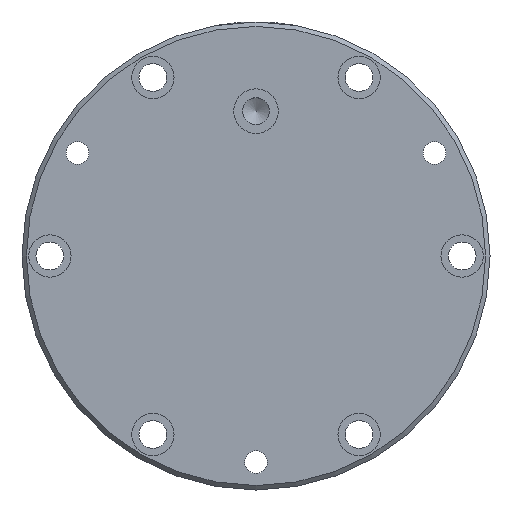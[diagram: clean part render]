
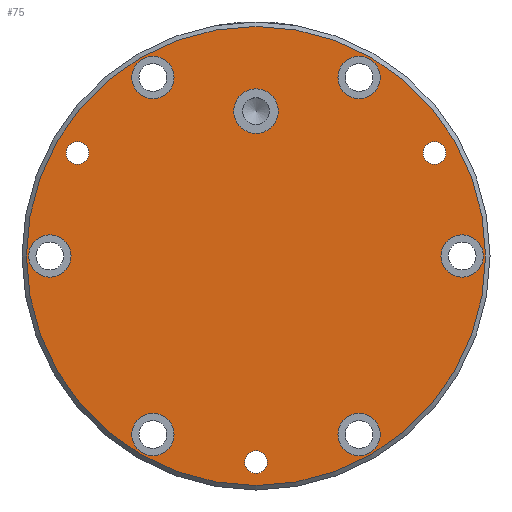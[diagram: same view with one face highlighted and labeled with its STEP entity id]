
A CAD part, left-side view. The second image highlights one B-rep face of the part: STEP entity #75.
In plain terms, the highlighted planar face has unit normal (-1, 0, 0).
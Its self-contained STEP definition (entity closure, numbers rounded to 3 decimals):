
#75 = ADVANCED_FACE( '', ( #119, #120, #121, #122, #123, #124, #125, #126, #127, #128, #129 ), #130, .T. );
#119 = FACE_BOUND( '', #266, .T. );
#120 = FACE_BOUND( '', #267, .T. );
#121 = FACE_BOUND( '', #268, .T. );
#122 = FACE_BOUND( '', #269, .T. );
#123 = FACE_BOUND( '', #270, .T. );
#124 = FACE_BOUND( '', #271, .T. );
#125 = FACE_BOUND( '', #272, .T. );
#126 = FACE_BOUND( '', #273, .T. );
#127 = FACE_BOUND( '', #274, .T. );
#128 = FACE_OUTER_BOUND( '', #275, .T. );
#129 = FACE_BOUND( '', #276, .T. );
#130 = PLANE( '', #277 );
#266 = EDGE_LOOP( '', ( #413 ) );
#267 = EDGE_LOOP( '', ( #414 ) );
#268 = EDGE_LOOP( '', ( #415 ) );
#269 = EDGE_LOOP( '', ( #416 ) );
#270 = EDGE_LOOP( '', ( #417 ) );
#271 = EDGE_LOOP( '', ( #418 ) );
#272 = EDGE_LOOP( '', ( #419 ) );
#273 = EDGE_LOOP( '', ( #420 ) );
#274 = EDGE_LOOP( '', ( #421 ) );
#275 = EDGE_LOOP( '', ( #422 ) );
#276 = EDGE_LOOP( '', ( #423 ) );
#277 = AXIS2_PLACEMENT_3D( '', #424, #425, #426 );
#413 = ORIENTED_EDGE( '', *, *, #647, .F. );
#414 = ORIENTED_EDGE( '', *, *, #648, .F. );
#415 = ORIENTED_EDGE( '', *, *, #649, .F. );
#416 = ORIENTED_EDGE( '', *, *, #650, .T. );
#417 = ORIENTED_EDGE( '', *, *, #651, .T. );
#418 = ORIENTED_EDGE( '', *, *, #652, .T. );
#419 = ORIENTED_EDGE( '', *, *, #653, .T. );
#420 = ORIENTED_EDGE( '', *, *, #654, .T. );
#421 = ORIENTED_EDGE( '', *, *, #655, .T. );
#422 = ORIENTED_EDGE( '', *, *, #656, .T. );
#423 = ORIENTED_EDGE( '', *, *, #657, .T. );
#424 = CARTESIAN_POINT( '', ( 0., 0., 0. ) );
#425 = DIRECTION( '', ( -1., 0., 0. ) );
#426 = DIRECTION( '', ( 0., 0., 1. ) );
#647 = EDGE_CURVE( '', #700, #700, #701, .T. );
#648 = EDGE_CURVE( '', #702, #702, #703, .T. );
#649 = EDGE_CURVE( '', #704, #704, #705, .T. );
#650 = EDGE_CURVE( '', #706, #706, #707, .T. );
#651 = EDGE_CURVE( '', #708, #708, #709, .T. );
#652 = EDGE_CURVE( '', #710, #710, #711, .T. );
#653 = EDGE_CURVE( '', #712, #712, #713, .T. );
#654 = EDGE_CURVE( '', #714, #714, #715, .T. );
#655 = EDGE_CURVE( '', #716, #716, #717, .T. );
#656 = EDGE_CURVE( '', #718, #718, #719, .T. );
#657 = EDGE_CURVE( '', #720, #720, #721, .T. );
#700 = VERTEX_POINT( '', #803 );
#701 = CIRCLE( '', #804, 5.1 );
#702 = VERTEX_POINT( '', #805 );
#703 = CIRCLE( '', #806, 5.1 );
#704 = VERTEX_POINT( '', #807 );
#705 = CIRCLE( '', #808, 5.1 );
#706 = VERTEX_POINT( '', #809 );
#707 = CIRCLE( '', #810, 9.5 );
#708 = VERTEX_POINT( '', #811 );
#709 = CIRCLE( '', #812, 9.5 );
#710 = VERTEX_POINT( '', #813 );
#711 = CIRCLE( '', #814, 9.5 );
#712 = VERTEX_POINT( '', #815 );
#713 = CIRCLE( '', #816, 9.5 );
#714 = VERTEX_POINT( '', #817 );
#715 = CIRCLE( '', #818, 9.5 );
#716 = VERTEX_POINT( '', #819 );
#717 = CIRCLE( '', #820, 9.5 );
#718 = VERTEX_POINT( '', #821 );
#719 = CIRCLE( '', #822, 103. );
#720 = VERTEX_POINT( '', #823 );
#721 = CIRCLE( '', #824, 10. );
#803 = CARTESIAN_POINT( '', ( 0., 5.1, -92.5 ) );
#804 = AXIS2_PLACEMENT_3D( '', #1104, #1105, #1106 );
#805 = CARTESIAN_POINT( '', ( 0., -75.007, 46.25 ) );
#806 = AXIS2_PLACEMENT_3D( '', #1107, #1108, #1109 );
#807 = CARTESIAN_POINT( '', ( 0., 85.207, 46.25 ) );
#808 = AXIS2_PLACEMENT_3D( '', #1110, #1111, #1112 );
#809 = CARTESIAN_POINT( '', ( 0., -92.5, 9.5 ) );
#810 = AXIS2_PLACEMENT_3D( '', #1113, #1114, #1115 );
#811 = CARTESIAN_POINT( '', ( 0., -46.25, -70.607 ) );
#812 = AXIS2_PLACEMENT_3D( '', #1116, #1117, #1118 );
#813 = CARTESIAN_POINT( '', ( 0., 46.25, -70.607 ) );
#814 = AXIS2_PLACEMENT_3D( '', #1119, #1120, #1121 );
#815 = CARTESIAN_POINT( '', ( 0., 92.5, 9.5 ) );
#816 = AXIS2_PLACEMENT_3D( '', #1122, #1123, #1124 );
#817 = CARTESIAN_POINT( '', ( 0., 46.25, 89.607 ) );
#818 = AXIS2_PLACEMENT_3D( '', #1125, #1126, #1127 );
#819 = CARTESIAN_POINT( '', ( 0., -46.25, 89.607 ) );
#820 = AXIS2_PLACEMENT_3D( '', #1128, #1129, #1130 );
#821 = CARTESIAN_POINT( '', ( 0., 0., 103. ) );
#822 = AXIS2_PLACEMENT_3D( '', #1131, #1132, #1133 );
#823 = CARTESIAN_POINT( '', ( 0., -10., 65. ) );
#824 = AXIS2_PLACEMENT_3D( '', #1134, #1135, #1136 );
#1104 = CARTESIAN_POINT( '', ( 0., 0., -92.5 ) );
#1105 = DIRECTION( '', ( -1., 0., 0. ) );
#1106 = DIRECTION( '', ( 0., 1., 0. ) );
#1107 = CARTESIAN_POINT( '', ( 0., -80.107, 46.25 ) );
#1108 = DIRECTION( '', ( -1., 0., 0. ) );
#1109 = DIRECTION( '', ( 0., 1., 0. ) );
#1110 = CARTESIAN_POINT( '', ( 0., 80.107, 46.25 ) );
#1111 = DIRECTION( '', ( -1., 0., 0. ) );
#1112 = DIRECTION( '', ( 0., 1., 0. ) );
#1113 = CARTESIAN_POINT( '', ( 0., -92.5, 0. ) );
#1114 = DIRECTION( '', ( 1., 0., 0. ) );
#1115 = DIRECTION( '', ( 0., 0., 1. ) );
#1116 = CARTESIAN_POINT( '', ( 0., -46.25, -80.107 ) );
#1117 = DIRECTION( '', ( 1., 0., 0. ) );
#1118 = DIRECTION( '', ( 0., 0., 1. ) );
#1119 = CARTESIAN_POINT( '', ( 0., 46.25, -80.107 ) );
#1120 = DIRECTION( '', ( 1., 0., 0. ) );
#1121 = DIRECTION( '', ( 0., 0., 1. ) );
#1122 = CARTESIAN_POINT( '', ( 0., 92.5, 0. ) );
#1123 = DIRECTION( '', ( 1., 0., 0. ) );
#1124 = DIRECTION( '', ( 0., 0., 1. ) );
#1125 = CARTESIAN_POINT( '', ( 0., 46.25, 80.107 ) );
#1126 = DIRECTION( '', ( 1., 0., 0. ) );
#1127 = DIRECTION( '', ( 0., 0., 1. ) );
#1128 = CARTESIAN_POINT( '', ( 0., -46.25, 80.107 ) );
#1129 = DIRECTION( '', ( 1., 0., 0. ) );
#1130 = DIRECTION( '', ( 0., 0., 1. ) );
#1131 = CARTESIAN_POINT( '', ( 0., 0., 0. ) );
#1132 = DIRECTION( '', ( -1., 0., 0. ) );
#1133 = DIRECTION( '', ( 0., 0., 1. ) );
#1134 = CARTESIAN_POINT( '', ( 0., 0., 65. ) );
#1135 = DIRECTION( '', ( 1., 0., 0. ) );
#1136 = DIRECTION( '', ( 0., -1., 0. ) );
